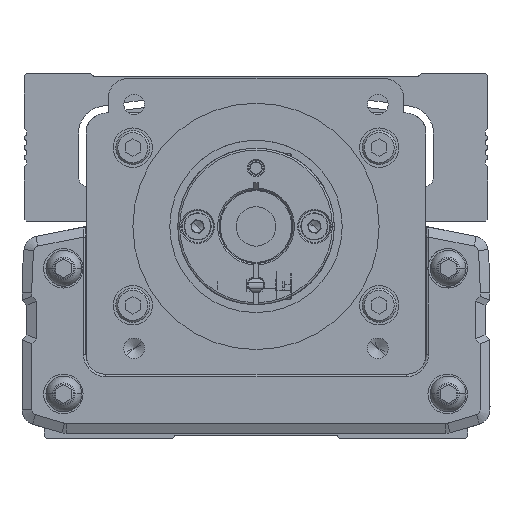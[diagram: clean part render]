
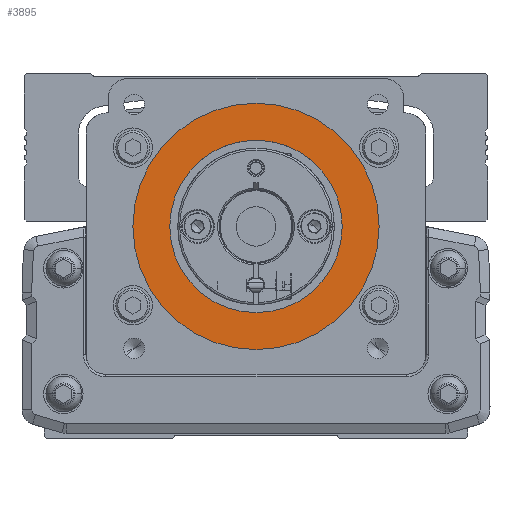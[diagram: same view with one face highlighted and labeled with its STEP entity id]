
A CAD part, front view. The second image highlights one B-rep face of the part: STEP entity #3895.
In plain terms, the highlighted planar face has unit normal (0, -1, 0).
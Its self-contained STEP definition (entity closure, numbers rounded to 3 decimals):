
#3895=ADVANCED_FACE('',(#10429,#10430),#10431,.T.);
#10429=FACE_BOUND('',#20335,.T.);
#10430=FACE_OUTER_BOUND('',#20336,.T.);
#10431=PLANE('',#20337);
#20335=EDGE_LOOP('',(#32974,#32975));
#20336=EDGE_LOOP('',(#32976,#32977));
#20337=AXIS2_PLACEMENT_3D('',#32978,#32979,#32980);
#32974=ORIENTED_EDGE('',*,*,#59642,.T.);
#32975=ORIENTED_EDGE('',*,*,#59643,.T.);
#32976=ORIENTED_EDGE('',*,*,#59644,.F.);
#32977=ORIENTED_EDGE('',*,*,#59645,.F.);
#32978=CARTESIAN_POINT('',(0.,-135.778,0.));
#32979=DIRECTION('',(0.,-1.0,0.));
#32980=DIRECTION('',(1.0,0.,0.));
#59642=EDGE_CURVE('',#71382,#71383,#71384,.T.);
#59643=EDGE_CURVE('',#71383,#71382,#71385,.T.);
#59644=EDGE_CURVE('',#71386,#71387,#71388,.T.);
#59645=EDGE_CURVE('',#71387,#71386,#71389,.T.);
#71382=VERTEX_POINT('',#88027);
#71383=VERTEX_POINT('',#88028);
#71384=CIRCLE('',#88029,17.5);
#71385=CIRCLE('',#88030,17.5);
#71386=VERTEX_POINT('',#88031);
#71387=VERTEX_POINT('',#88032);
#71388=CIRCLE('',#88033,25.0);
#71389=CIRCLE('',#88034,25.0);
#88027=CARTESIAN_POINT('',(17.5,-135.778,0.));
#88028=CARTESIAN_POINT('',(-17.5,-135.778,0.));
#88029=AXIS2_PLACEMENT_3D('',#109199,#109200,#109201);
#88030=AXIS2_PLACEMENT_3D('',#109202,#109203,#109204);
#88031=CARTESIAN_POINT('',(25.,-135.778,0.));
#88032=CARTESIAN_POINT('',(-25.,-135.778,0.));
#88033=AXIS2_PLACEMENT_3D('',#109205,#109206,#109207);
#88034=AXIS2_PLACEMENT_3D('',#109208,#109209,#109210);
#109199=CARTESIAN_POINT('',(0.,-135.778,0.));
#109200=DIRECTION('',(0.,1.0,0.));
#109201=DIRECTION('',(-1.0,0.,0.));
#109202=CARTESIAN_POINT('',(0.,-135.778,0.));
#109203=DIRECTION('',(0.,1.0,0.));
#109204=DIRECTION('',(-1.0,0.,0.));
#109205=CARTESIAN_POINT('',(0.,-135.778,0.));
#109206=DIRECTION('',(0.,1.0,0.));
#109207=DIRECTION('',(1.0,0.,0.));
#109208=CARTESIAN_POINT('',(0.,-135.778,0.));
#109209=DIRECTION('',(0.,1.0,0.));
#109210=DIRECTION('',(1.0,0.,0.));
